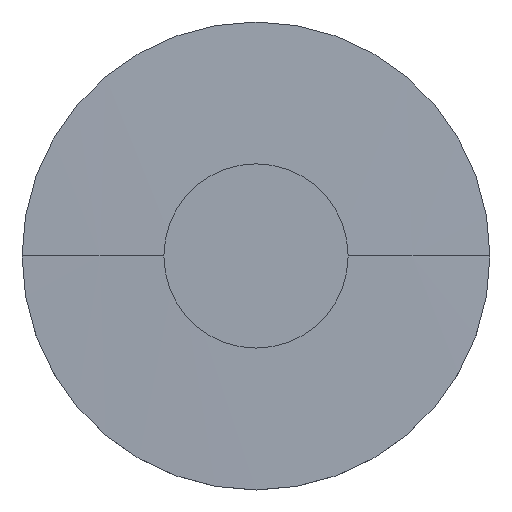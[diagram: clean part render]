
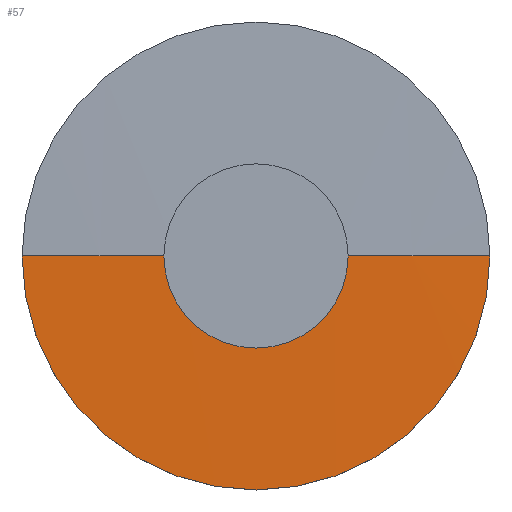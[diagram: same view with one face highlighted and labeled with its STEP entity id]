
A CAD part, top view. The second image highlights one B-rep face of the part: STEP entity #57.
In plain terms, the highlighted spherical face has radius 1060.45 mm.
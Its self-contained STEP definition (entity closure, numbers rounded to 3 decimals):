
#57=ADVANCED_FACE('',(#71),#72,.T.);
#71=FACE_OUTER_BOUND('',#91,.T.);
#72=SPHERICAL_SURFACE('',#92,1060.445);
#91=EDGE_LOOP('',(#124,#125,#126));
#92=AXIS2_PLACEMENT_3D('',#127,#128,#129);
#124=ORIENTED_EDGE('',*,*,#173,.T.);
#125=ORIENTED_EDGE('',*,*,#174,.T.);
#126=ORIENTED_EDGE('',*,*,#175,.T.);
#127=CARTESIAN_POINT('',(0.0,0.0,-1053.945));
#128=DIRECTION('',(0.0,0.0,1.0));
#129=DIRECTION('',(1.0,0.0,0.0));
#173=EDGE_CURVE('',#189,#194,#195,.T.);
#174=EDGE_CURVE('',#194,#191,#196,.T.);
#175=EDGE_CURVE('',#191,#189,#197,.T.);
#189=VERTEX_POINT('',#215);
#191=VERTEX_POINT('',#218);
#194=VERTEX_POINT('',#222);
#195=CIRCLE('',#223,1060.445);
#196=CIRCLE('',#224,1060.445);
#197=CIRCLE('',#225,25.4);
#215=CARTESIAN_POINT('',(25.4,0.,6.196));
#218=CARTESIAN_POINT('',(-25.4,0.,6.196));
#222=CARTESIAN_POINT('',(0.0,0.0,6.5));
#223=AXIS2_PLACEMENT_3D('',#253,#254,#255);
#224=AXIS2_PLACEMENT_3D('',#256,#257,#258);
#225=AXIS2_PLACEMENT_3D('',#259,#260,#261);
#253=CARTESIAN_POINT('',(0.0,0.0,-1053.945));
#254=DIRECTION('',(0.,-1.0,0.0));
#255=DIRECTION('',(0.0,0.0,1.0));
#256=CARTESIAN_POINT('',(0.0,0.0,-1053.945));
#257=DIRECTION('',(0.,-1.0,0.0));
#258=DIRECTION('',(0.0,0.0,1.0));
#259=CARTESIAN_POINT('',(0.0,0.0,6.196));
#260=DIRECTION('',(0.0,0.0,1.0));
#261=DIRECTION('',(1.0,0.0,0.0));
